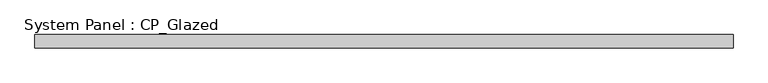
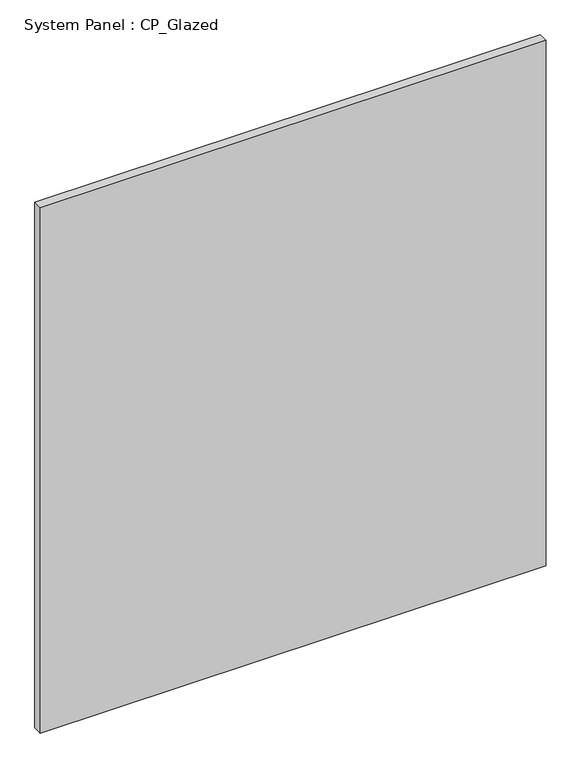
"""IFC4 building model written with IfcOpenShell, lengths in millimetres: plate geometry, System Panel : CP_Glazed."""

from ifc_helpers import new_model, si_unit, origin, origin_with_axes, place, context, project, spatial, polyline, outline, extrude, source, transform, mapped, element, save


def system_panel_cp_glazed_9916df43(model_context):
    return source(origin(), model_context, "Body", "SweptSolid", [
        extrude(outline(polyline([(674.3211538, 19.05), (-674.3211538, 19.05), (-674.3211538, 44.45), (674.3211538, 44.45), (674.3211538, 19.05)])), origin_with_axes(), (0.0, 0.0, 1.0), 1479.55),
    ])


if __name__ == "__main__":
    model = new_model("IFC4")
    model_context = context("Model", 3, world=origin())
    ifc_project = project(units=[si_unit("LENGTHUNIT", "METRE", prefix="MILLI")], contexts=[model_context])
    site = spatial("IfcSite", under=ifc_project)
    building = spatial("IfcBuilding", under=site)
    placement = place(None, origin())
    system_panel_cp_glazed_shape = system_panel_cp_glazed_9916df43(model_context)
    element("IfcPlate", 1, ObjectType="System Panel : CP_Glazed", at=placement, inside=building, context=model_context, shape_type="MappedRepresentation", body=[
        mapped(system_panel_cp_glazed_shape, transform((0.0, 0.0, 0.0), x_axis=(1.0, 0.0, 0.0), y_axis=(0.0, 1.0, 0.0), z_axis=(0.0, 0.0, 1.0))),
    ])
    save(model, "model.ifc")
